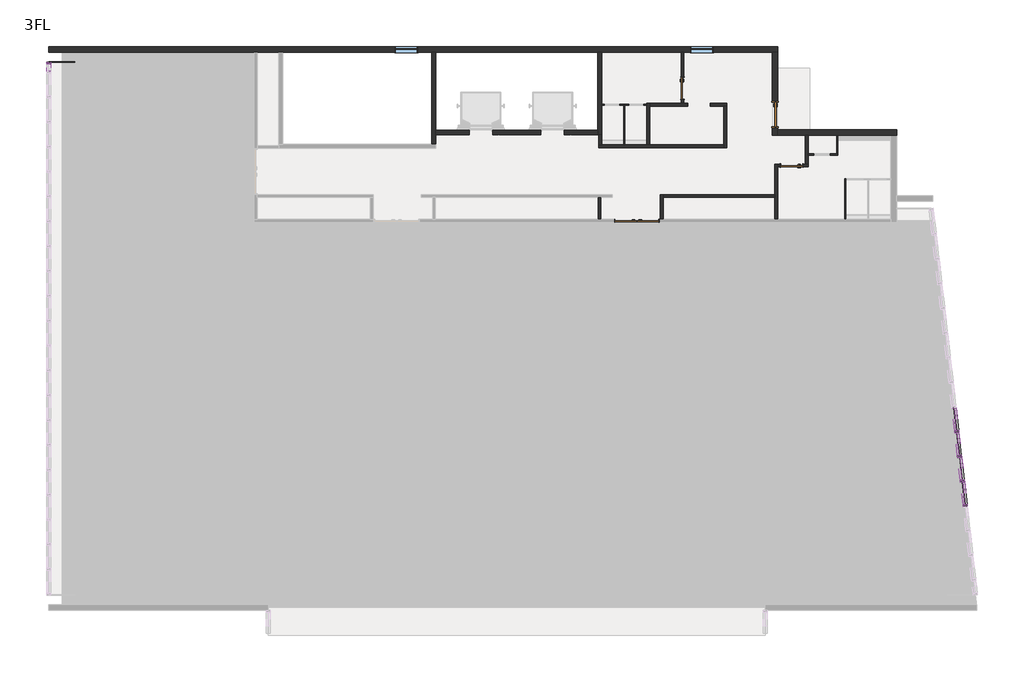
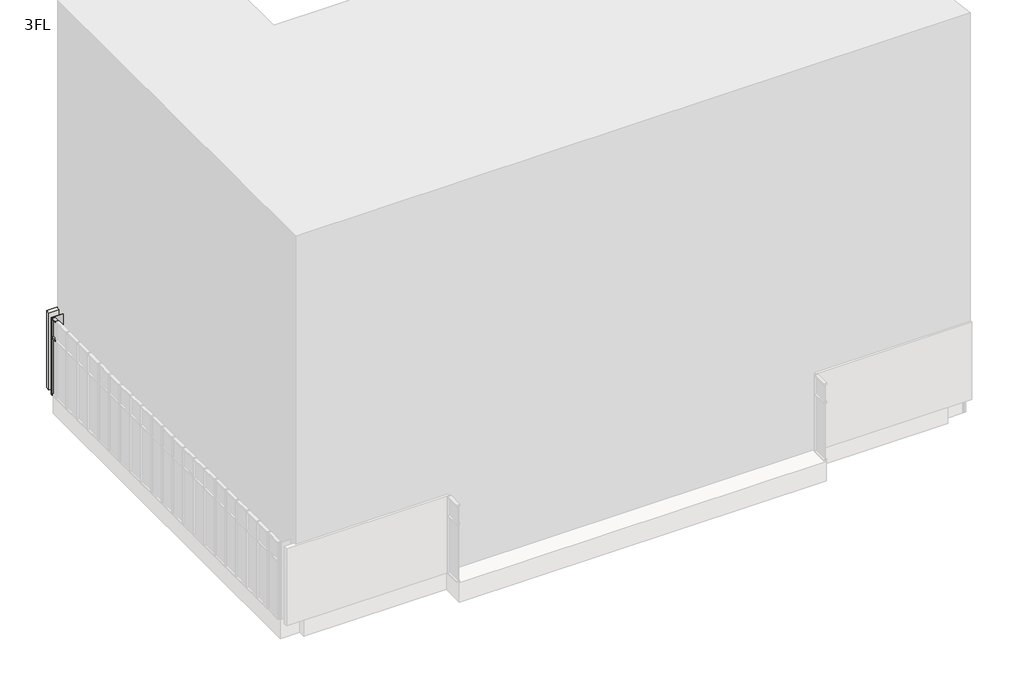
# One storey, part 4 of 5: 33 members, 23 walls, 14 plates, 5 doors, 2 windows.
"""IFC4 building model written with IfcOpenShell, lengths in millimetres."""

from ifc_helpers import new_model, si_unit, frame, origin, place, context, project, spatial, polyline, outline, extrude, faceted_brep, transform, mapped, element, save
from components import door_1de376c6, w800h2000_3f366617, w800h2000_fc627520, w800h2000_d76b1b72, w900h2000_8d150256, member_70x150_66cf63de, member_70x150_26475b18, member_70x150_ad4265bc, member_70x150_1b280ac3, member_70x150_76429c73, member_70x150_a15bb337, member_70x150_da24903b, member_70x150_cdd4dcf9, plate_d1366ea1, plate_ab860a3c, plate_396bcf3c, plate_a71482e5, w800_h1100_2b598eca

model = new_model("IFC4")

# Units and contexts
model_context = context("Model", 3, world=origin())
ifc_project = project(units=[si_unit("LENGTHUNIT", "METRE", prefix="MILLI")], contexts=[model_context])

# Site, building, storey
site = spatial("IfcSite", under=ifc_project)
building = spatial("IfcBuilding", under=site)
storey = spatial("IfcBuildingStorey", under=building, Name="3FL", Elevation=8600.0)

# Doors
placement = place(None, origin())
door_shape = door_1de376c6(model_context)
element("IfcDoor", 1, ObjectType="両開き戸 : 両開き：w1600h2000", at=placement, inside=storey, context=model_context, shape_type="MappedRepresentation", body=[
    mapped(door_shape, transform((-8054.4500107, 10449.6868987, 8600.0), x_axis=(-1.0, 0.0, 0.0), y_axis=(0.0, -1.0, 0.0), z_axis=(0.0, 0.0, 1.0))),
])
w800h2000_shape = w800h2000_3f366617(model_context)
element("IfcDoor", 2, ObjectType="片開き戸 : w800h2000", at=placement, inside=storey, context=model_context, shape_type="MappedRepresentation", body=[
    mapped(w800h2000_shape, transform((-2445.9784025, 12449.6868987, 8600.0), x_axis=(-1.0, 0.0, 0.0), y_axis=(0.0, -1.0, 0.0), z_axis=(0.0, 0.0, 1.0))),
])
w800h2000_2_shape = w800h2000_fc627520(model_context)
element("IfcDoor", 3, ObjectType="片開き戸 : w800h2000", at=placement, inside=storey, context=model_context, shape_type="MappedRepresentation", body=[
    mapped(w800h2000_2_shape, transform((-6395.9784025, 15249.6868987, 8600.0), x_axis=(0.0, -1.0, 0.0), y_axis=(1.0, 0.0, 0.0), z_axis=(0.0, 0.0, 1.0))),
])
w800h2000_3_shape = w800h2000_d76b1b72(model_context)
element("IfcDoor", 4, ObjectType="開口枠あり : w800h2000", at=placement, inside=storey, context=model_context, shape_type="MappedRepresentation", body=[
    mapped(w800h2000_3_shape, transform((-5795.9784025, 14649.6868987, 8600.0), x_axis=(-1.0, 0.0, 0.0), y_axis=(0.0, -1.0, 0.0), z_axis=(0.0, 0.0, 1.0))),
])
w900h2000_shape = w900h2000_8d150256(model_context)
element("IfcDoor", 5, ObjectType="片開き戸 : w900h2000", at=placement, inside=storey, context=model_context, shape_type="MappedRepresentation", body=[
    mapped(w900h2000_shape, transform((-3045.9784025, 14299.6868987, 8600.0), x_axis=(0.0, -1.0, 0.0), y_axis=(1.0, 0.0, 0.0), z_axis=(0.0, 0.0, 1.0))),
])

# Members
member_70x150_shape = member_70x150_66cf63de(model_context)
element("IfcMember", 6, ObjectType="長方形のマリオン : 70x150", at=placement, inside=storey, context=model_context, shape_type="MappedRepresentation", body=[
    mapped(member_70x150_shape, transform((3742.5905373, 994.1661523, 7600.0), x_axis=(0.0, 0.0, -1.0), y_axis=(-0.9935326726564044, -0.1135465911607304, 0.0), z_axis=(-0.11354659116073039, 0.9935326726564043, 0.0))),
])
element("IfcMember", 7, ObjectType="長方形のマリオン : 70x150", at=placement, inside=storey, context=model_context, shape_type="MappedRepresentation", body=[
    mapped(member_70x150_shape, transform((3640.3986053, 1888.3455577, 7600.0), x_axis=(0.0, 0.0, -1.0), y_axis=(-0.9935326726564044, -0.1135465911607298, 0.0), z_axis=(-0.1135465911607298, 0.9935326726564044, 0.0))),
])
element("IfcMember", 8, ObjectType="長方形のマリオン : 70x150", at=placement, inside=storey, context=model_context, shape_type="MappedRepresentation", body=[
    mapped(member_70x150_shape, transform((3538.2066732, 2782.5249631, 7600.0), x_axis=(0.0, 0.0, -1.0), y_axis=(-0.9935326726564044, -0.1135465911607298, 0.0), z_axis=(-0.1135465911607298, 0.9935326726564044, 0.0))),
])
element("IfcMember", 9, ObjectType="長方形のマリオン : 70x150", at=placement, inside=storey, context=model_context, shape_type="MappedRepresentation", body=[
    mapped(member_70x150_shape, transform((3844.7824693, 99.9867469, 7600.0), x_axis=(0.0, 0.0, -1.0), y_axis=(-0.9935326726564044, -0.11354659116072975, 0.0), z_axis=(-0.11354659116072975, 0.9935326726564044, 0.0))),
])
element("IfcMember", 10, ObjectType="長方形のマリオン : 70x150", at=placement, inside=storey, context=model_context, shape_type="MappedRepresentation", body=[
    mapped(member_70x150_shape, transform((3836.834208, 169.534034, 12600.0), x_axis=(0.0, 0.0, 1.0), y_axis=(-0.9935326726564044, -0.11354659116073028, 0.0), z_axis=(0.11354659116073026, -0.9935326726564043, 0.0))),
])
element("IfcMember", 11, ObjectType="長方形のマリオン : 70x150", at=placement, inside=storey, context=model_context, shape_type="MappedRepresentation", body=[
    mapped(member_70x150_shape, transform((3734.6422759, 1063.7134394, 12600.0), x_axis=(0.0, 0.0, 1.0), y_axis=(-0.9935326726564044, -0.11354659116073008, 0.0), z_axis=(0.11354659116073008, -0.9935326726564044, 0.0))),
])
element("IfcMember", 12, ObjectType="長方形のマリオン : 70x150", at=placement, inside=storey, context=model_context, shape_type="MappedRepresentation", body=[
    mapped(member_70x150_shape, transform((3632.4503439, 1957.8928448, 12600.0), x_axis=(0.0, 0.0, 1.0), y_axis=(-0.9935326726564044, -0.11354659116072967, 0.0), z_axis=(0.11354659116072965, -0.9935326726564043, 0.0))),
])
element("IfcMember", 13, ObjectType="長方形のマリオン : 70x150", at=placement, inside=storey, context=model_context, shape_type="MappedRepresentation", body=[
    mapped(member_70x150_shape, transform((3530.2584118, 2852.0722502, 12600.0), x_axis=(0.0, 0.0, 1.0), y_axis=(-0.9935326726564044, -0.11354659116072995, 0.0), z_axis=(0.11354659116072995, -0.9935326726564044, 0.0))),
])
member_70x150_2_shape = member_70x150_26475b18(model_context)
element("IfcMember", 14, ObjectType="長方形のマリオン : 70x150", at=placement, inside=storey, context=model_context, shape_type="MappedRepresentation", body=[
    mapped(member_70x150_2_shape, transform((3840.8083387, 134.7603905, 11600.0), x_axis=(0.11354659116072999, -0.9935326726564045, 0.0), y_axis=(-0.9935326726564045, -0.11354659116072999, 0.0), z_axis=(0.0, 0.0, -1.0))),
])
element("IfcMember", 15, ObjectType="長方形のマリオン : 70x150", at=placement, inside=storey, context=model_context, shape_type="MappedRepresentation", body=[
    mapped(member_70x150_2_shape, transform((3738.6164066, 1028.9397959, 11600.0), x_axis=(0.11354659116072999, -0.9935326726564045, 0.0), y_axis=(-0.9935326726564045, -0.11354659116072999, 0.0), z_axis=(0.0, 0.0, -1.0))),
])
element("IfcMember", 16, ObjectType="長方形のマリオン : 70x150", at=placement, inside=storey, context=model_context, shape_type="MappedRepresentation", body=[
    mapped(member_70x150_2_shape, transform((3636.4244746, 1923.1192013, 11600.0), x_axis=(0.11354659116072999, -0.9935326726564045, 0.0), y_axis=(-0.9935326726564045, -0.11354659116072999, 0.0), z_axis=(0.0, 0.0, -1.0))),
])
element("IfcMember", 17, ObjectType="長方形のマリオン : 70x150", at=placement, inside=storey, context=model_context, shape_type="MappedRepresentation", body=[
    mapped(member_70x150_2_shape, transform((3534.2325425, 2817.2986066, 11600.0), x_axis=(0.11354659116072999, -0.9935326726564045, 0.0), y_axis=(-0.9935326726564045, -0.11354659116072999, 0.0), z_axis=(0.0, 0.0, -1.0))),
])
member_70x150_3_shape = member_70x150_ad4265bc(model_context)
element("IfcMember", 18, ObjectType="長方形のマリオン : 70x150", at=placement, inside=storey, context=model_context, shape_type="MappedRepresentation", body=[
    mapped(member_70x150_3_shape, transform((3836.834208, 169.534034, 8600.0), x_axis=(0.0, 0.0, 1.0), y_axis=(-0.9935326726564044, -0.11354659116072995, 0.0), z_axis=(0.11354659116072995, -0.9935326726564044, 0.0))),
])
element("IfcMember", 19, ObjectType="長方形のマリオン : 70x150", at=placement, inside=storey, context=model_context, shape_type="MappedRepresentation", body=[
    mapped(member_70x150_3_shape, transform((3734.6422759, 1063.7134394, 8600.0), x_axis=(0.0, 0.0, 1.0), y_axis=(-0.9935326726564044, -0.1135465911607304, 0.0), z_axis=(0.11354659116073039, -0.9935326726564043, 0.0))),
])
element("IfcMember", 20, ObjectType="長方形のマリオン : 70x150", at=placement, inside=storey, context=model_context, shape_type="MappedRepresentation", body=[
    mapped(member_70x150_3_shape, transform((3632.4503439, 1957.8928448, 8600.0), x_axis=(0.0, 0.0, 1.0), y_axis=(-0.9935326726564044, -0.1135465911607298, 0.0), z_axis=(0.1135465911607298, -0.9935326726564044, 0.0))),
])
element("IfcMember", 21, ObjectType="長方形のマリオン : 70x150", at=placement, inside=storey, context=model_context, shape_type="MappedRepresentation", body=[
    mapped(member_70x150_3_shape, transform((3530.2584118, 2852.0722502, 8600.0), x_axis=(0.0, 0.0, 1.0), y_axis=(-0.9935326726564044, -0.11354659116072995, 0.0), z_axis=(0.11354659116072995, -0.9935326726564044, 0.0))),
])
element("IfcMember", 22, ObjectType="長方形のマリオン : 70x150", at=placement, inside=storey, context=model_context, shape_type="MappedRepresentation", body=[
    mapped(member_70x150_3_shape, transform((3530.2584118, 2852.0722502, 11600.0), x_axis=(0.0, 0.0, 1.0), y_axis=(-0.9935326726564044, -0.11354659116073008, 0.0), z_axis=(0.11354659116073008, -0.9935326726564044, 0.0))),
])
element("IfcMember", 23, ObjectType="長方形のマリオン : 70x150", at=placement, inside=storey, context=model_context, shape_type="MappedRepresentation", body=[
    mapped(member_70x150_3_shape, transform((3632.4503439, 1957.8928448, 11600.0), x_axis=(0.0, 0.0, 1.0), y_axis=(-0.9935326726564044, -0.11354659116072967, 0.0), z_axis=(0.11354659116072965, -0.9935326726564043, 0.0))),
])
element("IfcMember", 24, ObjectType="長方形のマリオン : 70x150", at=placement, inside=storey, context=model_context, shape_type="MappedRepresentation", body=[
    mapped(member_70x150_3_shape, transform((3734.6422759, 1063.7134394, 11600.0), x_axis=(0.0, 0.0, 1.0), y_axis=(-0.9935326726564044, -0.11354659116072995, 0.0), z_axis=(0.11354659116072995, -0.9935326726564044, 0.0))),
])
element("IfcMember", 25, ObjectType="長方形のマリオン : 70x150", at=placement, inside=storey, context=model_context, shape_type="MappedRepresentation", body=[
    mapped(member_70x150_3_shape, transform((3836.834208, 169.534034, 11600.0), x_axis=(0.0, 0.0, 1.0), y_axis=(-0.9935326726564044, -0.1135465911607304, 0.0), z_axis=(0.11354659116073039, -0.9935326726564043, 0.0))),
])
member_70x150_4_shape = member_70x150_1b280ac3(model_context)
element("IfcMember", 26, ObjectType="長方形のマリオン : 70x150", at=placement, inside=storey, context=model_context, shape_type="MappedRepresentation", body=[
    mapped(member_70x150_4_shape, transform((-29345.9784025, 16199.6868987, 8600.0), x_axis=(0.0, 1.0, 0.0), y_axis=(1.0, 0.0, 0.0), z_axis=(0.0, 0.0, -1.0))),
])
member_70x150_5_shape = member_70x150_76429c73(model_context)
element("IfcMember", 27, ObjectType="長方形のマリオン : 70x150", at=placement, inside=storey, context=model_context, shape_type="MappedRepresentation", body=[
    mapped(member_70x150_5_shape, transform((-29345.9784025, 16199.6868987, 11600.0), x_axis=(0.0, 1.0, 0.0), y_axis=(1.0, 0.0, 0.0), z_axis=(0.0, 0.0, -1.0))),
])
member_70x150_6_shape = member_70x150_a15bb337(model_context)
element("IfcMember", 28, ObjectType="長方形のマリオン : 70x150", at=placement, inside=storey, context=model_context, shape_type="MappedRepresentation", body=[
    mapped(member_70x150_6_shape, transform((-29345.9784025, 16129.6868987, 12600.0), x_axis=(0.0, 0.0, 1.0), y_axis=(1.0, 0.0, 0.0), z_axis=(0.0, 1.0, 0.0))),
])
member_70x150_7_shape = member_70x150_da24903b(model_context)
element("IfcMember", 29, ObjectType="長方形のマリオン : 70x150", at=placement, inside=storey, context=model_context, shape_type="MappedRepresentation", body=[
    mapped(member_70x150_7_shape, transform((-29345.9784025, 16129.6868987, 11600.0), x_axis=(0.0, 0.0, 1.0), y_axis=(1.0, 0.0, 0.0), z_axis=(0.0, 1.0, 0.0))),
])
element("IfcMember", 30, ObjectType="長方形のマリオン : 70x150", at=placement, inside=storey, context=model_context, shape_type="MappedRepresentation", body=[
    mapped(member_70x150_2_shape, transform((3738.6164066, 1028.9397959, 7600.0), x_axis=(0.11354659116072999, -0.9935326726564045, 0.0), y_axis=(-0.9935326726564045, -0.11354659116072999, 0.0), z_axis=(0.0, 0.0, -1.0))),
])
element("IfcMember", 31, ObjectType="長方形のマリオン : 70x150", at=placement, inside=storey, context=model_context, shape_type="MappedRepresentation", body=[
    mapped(member_70x150_2_shape, transform((3636.4244746, 1923.1192013, 7600.0), x_axis=(0.11354659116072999, -0.9935326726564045, 0.0), y_axis=(-0.9935326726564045, -0.11354659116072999, 0.0), z_axis=(0.0, 0.0, -1.0))),
])
element("IfcMember", 32, ObjectType="長方形のマリオン : 70x150", at=placement, inside=storey, context=model_context, shape_type="MappedRepresentation", body=[
    mapped(member_70x150_2_shape, transform((3534.2325425, 2817.2986066, 7600.0), x_axis=(0.11354659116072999, -0.9935326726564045, 0.0), y_axis=(-0.9935326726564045, -0.11354659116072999, 0.0), z_axis=(0.0, 0.0, -1.0))),
])
element("IfcMember", 33, ObjectType="長方形のマリオン : 70x150", at=placement, inside=storey, context=model_context, shape_type="MappedRepresentation", body=[
    mapped(member_70x150_2_shape, transform((3432.0406105, 3711.478012, 7600.0), x_axis=(0.11354659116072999, -0.9935326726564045, 0.0), y_axis=(-0.9935326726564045, -0.11354659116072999, 0.0), z_axis=(0.0, 0.0, -1.0))),
])
element("IfcMember", 34, ObjectType="長方形のマリオン : 70x150", at=placement, inside=storey, context=model_context, shape_type="MappedRepresentation", body=[
    mapped(member_70x150_2_shape, transform((3840.8083387, 134.7603905, 7600.0), x_axis=(0.11354659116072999, -0.9935326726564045, 0.0), y_axis=(-0.9935326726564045, -0.11354659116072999, 0.0), z_axis=(0.0, 0.0, -1.0))),
])
member_70x150_8_shape = member_70x150_cdd4dcf9(model_context)
element("IfcMember", 35, ObjectType="長方形のマリオン : 70x150", at=placement, inside=storey, context=model_context, shape_type="MappedRepresentation", body=[
    mapped(member_70x150_8_shape, transform((3840.8083387, 134.7603905, 8600.0), x_axis=(0.11354659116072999, -0.9935326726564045, 0.0), y_axis=(-0.9935326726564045, -0.11354659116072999, 0.0), z_axis=(0.0, 0.0, -1.0))),
])
element("IfcMember", 36, ObjectType="長方形のマリオン : 70x150", at=placement, inside=storey, context=model_context, shape_type="MappedRepresentation", body=[
    mapped(member_70x150_8_shape, transform((3738.6164066, 1028.9397959, 8600.0), x_axis=(0.11354659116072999, -0.9935326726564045, 0.0), y_axis=(-0.9935326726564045, -0.11354659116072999, 0.0), z_axis=(0.0, 0.0, -1.0))),
])
element("IfcMember", 37, ObjectType="長方形のマリオン : 70x150", at=placement, inside=storey, context=model_context, shape_type="MappedRepresentation", body=[
    mapped(member_70x150_8_shape, transform((3636.4244746, 1923.1192013, 8600.0), x_axis=(0.11354659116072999, -0.9935326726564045, 0.0), y_axis=(-0.9935326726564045, -0.11354659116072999, 0.0), z_axis=(0.0, 0.0, -1.0))),
])
element("IfcMember", 38, ObjectType="長方形のマリオン : 70x150", at=placement, inside=storey, context=model_context, shape_type="MappedRepresentation", body=[
    mapped(member_70x150_8_shape, transform((3534.2325425, 2817.2986066, 8600.0), x_axis=(0.11354659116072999, -0.9935326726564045, 0.0), y_axis=(-0.9935326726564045, -0.11354659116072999, 0.0), z_axis=(0.0, 0.0, -1.0))),
])

# Plates
plate_shape = plate_d1366ea1(model_context)
element("IfcPlate", 39, ObjectType="システム パネル : 標準", at=placement, inside=storey, context=model_context, shape_type="MappedRepresentation", body=[
    mapped(plate_shape, transform((-28895.9784025, 16199.6868987, 8600.0), x_axis=(1.0, 0.0, 0.0), y_axis=(0.0, 1.0, 0.0), z_axis=(0.0, 0.0, 1.0))),
])
plate_2_shape = plate_ab860a3c(model_context)
element("IfcPlate", 40, ObjectType="システム パネル : 標準", at=placement, inside=storey, context=model_context, shape_type="MappedRepresentation", body=[
    mapped(plate_2_shape, transform((-28420.9784025, 16199.6868987, 8600.0), x_axis=(1.0, 0.0, 0.0), y_axis=(0.0, 1.0, 0.0), z_axis=(0.0, 0.0, 1.0))),
])
plate_3_shape = plate_396bcf3c(model_context)
element("IfcPlate", 41, ObjectType="システム パネル : 標準", at=placement, inside=storey, context=model_context, shape_type="MappedRepresentation", body=[
    mapped(plate_3_shape, transform((3483.1365765, 3264.3883093, 7670.0), x_axis=(0.11354659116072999, -0.9935326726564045, 0.0), y_axis=(0.9935326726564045, 0.11354659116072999, 0.0), z_axis=(0.0, 0.0, 1.0))),
])
element("IfcPlate", 42, ObjectType="システム パネル : 標準", at=placement, inside=storey, context=model_context, shape_type="MappedRepresentation", body=[
    mapped(plate_3_shape, transform((3585.3285085, 2370.2089039, 7670.0), x_axis=(0.11354659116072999, -0.9935326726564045, 0.0), y_axis=(0.9935326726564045, 0.11354659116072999, 0.0), z_axis=(0.0, 0.0, 1.0))),
])
element("IfcPlate", 43, ObjectType="システム パネル : 標準", at=placement, inside=storey, context=model_context, shape_type="MappedRepresentation", body=[
    mapped(plate_3_shape, transform((3687.5204406, 1476.0294986, 7670.0), x_axis=(0.11354659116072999, -0.9935326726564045, 0.0), y_axis=(0.9935326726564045, 0.11354659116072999, 0.0), z_axis=(0.0, 0.0, 1.0))),
])
element("IfcPlate", 44, ObjectType="システム パネル : 標準", at=placement, inside=storey, context=model_context, shape_type="MappedRepresentation", body=[
    mapped(plate_3_shape, transform((3789.7123726, 581.8500932, 7670.0), x_axis=(0.11354659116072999, -0.9935326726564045, 0.0), y_axis=(0.9935326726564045, 0.11354659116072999, 0.0), z_axis=(0.0, 0.0, 1.0))),
])
element("IfcPlate", 45, ObjectType="システム パネル : 標準", at=placement, inside=storey, context=model_context, shape_type="MappedRepresentation", body=[
    mapped(plate_3_shape, transform((3483.1365765, 3264.3883093, 11635.0), x_axis=(0.11354659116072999, -0.9935326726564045, 0.0), y_axis=(0.9935326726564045, 0.11354659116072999, 0.0), z_axis=(0.0, 0.0, 1.0))),
])
element("IfcPlate", 46, ObjectType="システム パネル : 標準", at=placement, inside=storey, context=model_context, shape_type="MappedRepresentation", body=[
    mapped(plate_3_shape, transform((3585.3285085, 2370.2089039, 11635.0), x_axis=(0.11354659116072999, -0.9935326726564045, 0.0), y_axis=(0.9935326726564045, 0.11354659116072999, 0.0), z_axis=(0.0, 0.0, 1.0))),
])
element("IfcPlate", 47, ObjectType="システム パネル : 標準", at=placement, inside=storey, context=model_context, shape_type="MappedRepresentation", body=[
    mapped(plate_3_shape, transform((3687.5204406, 1476.0294986, 11635.0), x_axis=(0.11354659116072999, -0.9935326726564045, 0.0), y_axis=(0.9935326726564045, 0.11354659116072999, 0.0), z_axis=(0.0, 0.0, 1.0))),
])
element("IfcPlate", 48, ObjectType="システム パネル : 標準", at=placement, inside=storey, context=model_context, shape_type="MappedRepresentation", body=[
    mapped(plate_3_shape, transform((3789.7123726, 581.8500932, 11635.0), x_axis=(0.11354659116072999, -0.9935326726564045, 0.0), y_axis=(0.9935326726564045, 0.11354659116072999, 0.0), z_axis=(0.0, 0.0, 1.0))),
])
plate_4_shape = plate_a71482e5(model_context)
element("IfcPlate", 49, ObjectType="システム パネル : 標準", at=placement, inside=storey, context=model_context, shape_type="MappedRepresentation", body=[
    mapped(plate_4_shape, transform((3483.1365765, 3264.3883093, 8635.0), x_axis=(0.11354659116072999, -0.9935326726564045, 0.0), y_axis=(0.9935326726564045, 0.11354659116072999, 0.0), z_axis=(0.0, 0.0, 1.0))),
])
element("IfcPlate", 50, ObjectType="システム パネル : 標準", at=placement, inside=storey, context=model_context, shape_type="MappedRepresentation", body=[
    mapped(plate_4_shape, transform((3585.3285085, 2370.2089039, 8635.0), x_axis=(0.11354659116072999, -0.9935326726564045, 0.0), y_axis=(0.9935326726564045, 0.11354659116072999, 0.0), z_axis=(0.0, 0.0, 1.0))),
])
element("IfcPlate", 51, ObjectType="システム パネル : 標準", at=placement, inside=storey, context=model_context, shape_type="MappedRepresentation", body=[
    mapped(plate_4_shape, transform((3687.5204406, 1476.0294986, 8635.0), x_axis=(0.11354659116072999, -0.9935326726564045, 0.0), y_axis=(0.9935326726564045, 0.11354659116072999, 0.0), z_axis=(0.0, 0.0, 1.0))),
])
element("IfcPlate", 52, ObjectType="システム パネル : 標準", at=placement, inside=storey, context=model_context, shape_type="MappedRepresentation", body=[
    mapped(plate_4_shape, transform((3789.7123726, 581.8500932, 8635.0), x_axis=(0.11354659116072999, -0.9935326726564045, 0.0), y_axis=(0.9935326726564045, 0.11354659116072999, 0.0), z_axis=(0.0, 0.0, 1.0))),
])

# Walls
element("IfcWall", 53, ObjectType="標準200", at=placement, inside=storey, context=model_context, shape_type="Brep", body=[
    faceted_brep([(-29345.9784025, 16549.6868987, 8600.0), (-21895.9784025, 16549.6868987, 8600.0), (-21795.9784025, 16549.6868987, 8600.0), (-21020.9784025, 16549.6868987, 8600.0), (-20870.9784025, 16549.6868987, 8600.0), (-15470.9784025, 16549.6868987, 8600.0), (-15320.9784025, 16549.6868987, 8600.0), (-9470.9784025, 16549.6868987, 8600.0), (-9320.9784025, 16549.6868987, 8600.0), (-6445.9784025, 16549.6868987, 8600.0), (-6345.9784025, 16549.6868987, 8600.0), (-3145.9784025, 16549.6868987, 8600.0), (-2945.9784025, 16549.6868987, 8600.0), (-2945.9784025, 16549.6868987, 12600.0), (-3145.9784025, 16549.6868987, 12600.0), (-6345.9784025, 16549.6868987, 12600.0), (-6445.9784025, 16549.6868987, 12600.0), (-9320.9784025, 16549.6868987, 12600.0), (-9470.9784025, 16549.6868987, 12600.0), (-15320.9784025, 16549.6868987, 12600.0), (-15470.9784025, 16549.6868987, 12600.0), (-20870.9784025, 16549.6868987, 12600.0), (-21020.9784025, 16549.6868987, 12600.0), (-21795.9784025, 16549.6868987, 12600.0), (-21895.9784025, 16549.6868987, 12600.0), (-29345.9784025, 16549.6868987, 12600.0), (-6120.9784025, 16549.6868987, 10625.0), (-5270.9784025, 16549.6868987, 10625.0), (-5270.9784025, 16549.6868987, 9475.0), (-6120.9784025, 16549.6868987, 9475.0), (-16820.9784025, 16549.6868987, 10625.0), (-15970.9784025, 16549.6868987, 10625.0), (-15970.9784025, 16549.6868987, 9475.0), (-16820.9784025, 16549.6868987, 9475.0), (-29345.9784025, 16749.6868987, 8600.0), (-29345.9784025, 16749.6868987, 12600.0), (-2945.9784025, 16749.6868987, 12600.0), (-2945.9784025, 16749.6868987, 8600.0), (-6120.9784025, 16749.6868987, 10625.0), (-6120.9784025, 16749.6868987, 9475.0), (-5270.9784025, 16749.6868987, 9475.0), (-5270.9784025, 16749.6868987, 10625.0), (-16820.9784025, 16749.6868987, 10625.0), (-16820.9784025, 16749.6868987, 9475.0), (-15970.9784025, 16749.6868987, 9475.0), (-15970.9784025, 16749.6868987, 10625.0)], [[[0, 1, 2, 3, 4, 5, 6, 7, 8, 9, 10, 11, 12, 13, 14, 15, 16, 17, 18, 19, 20, 21, 22, 23, 24, 25], [26, 27, 28, 29], [30, 31, 32, 33]], [[34, 35, 36, 37], [38, 39, 40, 41], [42, 43, 44, 45]], [[12, 11, 10, 9, 8, 7, 6, 5, 4, 3, 2, 1, 0, 34, 37]], [[25, 24, 23, 22, 21, 20, 19, 18, 17, 16, 15, 14, 13, 36, 35]], [[0, 25, 35, 34]], [[13, 12, 37, 36]], [[39, 38, 26, 29]], [[40, 39, 29, 28]], [[41, 40, 28, 27]], [[38, 41, 27, 26]], [[43, 42, 30, 33]], [[44, 43, 33, 32]], [[45, 44, 32, 31]], [[42, 45, 31, 30]]]),
])
element("IfcWall", 54, ObjectType="標準200", at=placement, inside=storey, context=model_context, shape_type="Brep", body=[
    faceted_brep([(-3145.9784025, 16549.6868987, 8600.0), (-3145.9784025, 14774.6868987, 8600.0), (-3145.9784025, 14774.6868987, 10625.0), (-3145.9784025, 13824.6868987, 10625.0), (-3145.9784025, 13824.6868987, 8600.0), (-3145.9784025, 13549.6868987, 8600.0), (-3145.9784025, 13549.6868987, 12600.0), (-3145.9784025, 16549.6868987, 12600.0), (-2945.9784025, 14774.6868987, 10625.0), (-2945.9784025, 14774.6868987, 8600.0), (-2945.9784025, 16549.6868987, 8600.0), (-2945.9784025, 16549.6868987, 12600.0), (-2945.9784025, 13749.6868987, 12600.0), (-2945.9784025, 13549.6868987, 12600.0), (-2945.9784025, 13549.6868987, 8600.0), (-2945.9784025, 13749.6868987, 8600.0), (-2945.9784025, 13824.6868987, 8600.0), (-2945.9784025, 13824.6868987, 10625.0)], [[[0, 1, 2, 3, 4, 5, 6, 7]], [[8, 9, 10, 11, 12, 13, 14, 15, 16, 17]], [[10, 9, 1, 0]], [[16, 15, 14, 5, 4]], [[7, 6, 13, 12, 11]], [[0, 7, 11, 10]], [[6, 5, 14, 13]], [[4, 3, 17, 16]], [[2, 1, 9, 8]], [[3, 2, 8, 17]]]),
])
element("IfcWall", 55, ObjectType="標準200", at=placement, inside=storey, context=model_context, shape_type="Brep", body=[
    faceted_brep([(-2945.9784025, 13549.6868987, 8600.0), (-1945.9784025, 13549.6868987, 8600.0), (-1845.9784025, 13549.6868987, 8600.0), (-815.9784025, 13549.6868987, 8600.0), (-775.9784025, 13549.6868987, 8600.0), (1154.0215975, 13549.6868987, 8600.0), (1354.0215975, 13549.6868987, 8600.0), (1354.0215975, 13549.6868987, 12600.0), (1154.0215975, 13549.6868987, 12600.0), (-1845.9784025, 13549.6868987, 12600.0), (-1945.9784025, 13549.6868987, 12600.0), (-2945.9784025, 13549.6868987, 12600.0), (-2945.9784025, 13749.6868987, 8600.0), (-2945.9784025, 13749.6868987, 12600.0), (1354.0215975, 13749.6868987, 12600.0), (1354.0215975, 13749.6868987, 8600.0)], [[[0, 1, 2, 3, 4, 5, 6, 7, 8, 9, 10, 11]], [[12, 13, 14, 15]], [[6, 5, 4, 3, 2, 1, 0, 12, 15]], [[11, 10, 9, 8, 7, 14, 13]], [[0, 11, 13, 12]], [[7, 6, 15, 14]]]),
])
element("IfcWall", 56, ObjectType="標準150", at=placement, inside=storey, context=model_context, shape_type="Brep", body=[
    faceted_brep([(-9470.9784025, 16549.6868987, 8600.0), (-9470.9784025, 13724.6868987, 8600.0), (-9470.9784025, 13574.6868987, 8600.0), (-9470.9784025, 13574.6868987, 12600.0), (-9470.9784025, 13724.6868987, 12600.0), (-9470.9784025, 16549.6868987, 12600.0), (-9320.9784025, 16549.6868987, 8600.0), (-9320.9784025, 16549.6868987, 12600.0), (-9320.9784025, 13574.6868987, 12600.0), (-9320.9784025, 13574.6868987, 8600.0), (-9320.9784025, 14629.6868987, 8600.0), (-9320.9784025, 14669.6868987, 8600.0), (-9420.9784025, 13574.6868987, 8600.0), (-9420.9784025, 13574.6868987, 12600.0)], [[[0, 1, 2, 3, 4, 5]], [[6, 7, 8, 9, 10, 11]], [[2, 1, 0, 6, 11, 10, 9, 12]], [[5, 4, 3, 13, 8, 7]], [[0, 5, 7, 6]], [[3, 2, 12, 9, 8, 13]]]),
])
element("IfcWall", 57, ObjectType="標準150", at=placement, inside=storey, context=model_context, shape_type="SweptSolid", body=[
    extrude(outline(polyline([(8600.0, -13270.9784025), (8600.0, -11520.9784025), (10725.0, -11520.9784025), (10725.0, -10670.9784025), (8600.0, -10670.9784025), (8600.0, -9470.9784025), (12600.0, -9470.9784025), (12600.0, -15320.9784025), (8600.0, -15320.9784025), (8600.0, -14120.9784025), (10725.0, -14120.9784025), (10725.0, -13270.9784025), (8600.0, -13270.9784025)])), frame((0.0, 13574.6868987, 0.0), z_axis=(0.0, 1.0, 0.0), x_axis=(0.0, 0.0, 1.0)), (0.0, 0.0, 1.0), 150.0),
])
element("IfcWall", 58, ObjectType="標準150", at=placement, inside=storey, context=model_context, shape_type="Brep", body=[
    faceted_brep([(-15320.9784025, 13224.6868987, 8600.0), (-15320.9784025, 13574.6868987, 8600.0), (-15320.9784025, 13724.6868987, 8600.0), (-15320.9784025, 16549.6868987, 8600.0), (-15320.9784025, 16549.6868987, 12600.0), (-15320.9784025, 13724.6868987, 12600.0), (-15320.9784025, 13574.6868987, 12600.0), (-15320.9784025, 13224.6868987, 12600.0), (-15470.9784025, 13224.6868987, 8600.0), (-15470.9784025, 13224.6868987, 12600.0), (-15470.9784025, 16549.6868987, 12600.0), (-15470.9784025, 16549.6868987, 8600.0)], [[[0, 1, 2, 3, 4, 5, 6, 7]], [[8, 9, 10, 11]], [[3, 2, 1, 0, 8, 11]], [[7, 6, 5, 4, 10, 9]], [[4, 3, 11, 10]], [[0, 7, 9, 8]]]),
])
element("IfcWall", 59, ObjectType="標準100", at=placement, inside=storey, context=model_context, shape_type="Brep", body=[
    faceted_brep([(-2945.9784025, 10499.6868987, 8600.0), (-2945.9784025, 12399.6868987, 8600.0), (-2945.9784025, 12499.6868987, 8600.0), (-2945.9784025, 12499.6868987, 12600.0), (-2945.9784025, 12399.6868987, 12600.0), (-2945.9784025, 10499.6868987, 12600.0), (-3045.9784025, 10499.6868987, 8600.0), (-3045.9784025, 10499.6868987, 12600.0), (-3045.9784025, 11299.6868987, 12600.0), (-3045.9784025, 11399.6868987, 12600.0), (-3045.9784025, 12499.6868987, 12600.0), (-3045.9784025, 12499.6868987, 8600.0), (-3045.9784025, 11399.6868987, 8600.0), (-3045.9784025, 11299.6868987, 8600.0)], [[[0, 1, 2, 3, 4, 5]], [[6, 7, 8, 9, 10, 11, 12, 13]], [[2, 1, 0, 6, 13, 12, 11]], [[5, 4, 3, 10, 9, 8, 7]], [[0, 5, 7, 6]], [[3, 2, 11, 10]]]),
])
element("IfcWall", 60, ObjectType="標準100", at=placement, inside=storey, context=model_context, shape_type="Brep", body=[
    faceted_brep([(-7095.9784025, 10499.6868987, 8600.0), (-7095.9784025, 11299.6868987, 8600.0), (-7095.9784025, 11399.6868987, 8600.0), (-7095.9784025, 11399.6868987, 12600.0), (-7095.9784025, 11299.6868987, 12600.0), (-7095.9784025, 10499.6868987, 12600.0), (-7195.9784025, 10499.6868987, 8600.0), (-7195.9784025, 10499.6868987, 12600.0), (-7195.9784025, 11399.6868987, 12600.0), (-7195.9784025, 11399.6868987, 8600.0)], [[[0, 1, 2, 3, 4, 5]], [[6, 7, 8, 9]], [[2, 1, 0, 6, 9]], [[5, 4, 3, 8, 7]], [[0, 5, 7, 6]], [[3, 2, 9, 8]]]),
])
element("IfcWall", 61, ObjectType="標準100", at=placement, inside=storey, context=model_context, shape_type="SweptSolid", body=[
    extrude(outline(polyline([(-3045.9784025, 11299.6868987), (-7095.9784025, 11299.6868987), (-7095.9784025, 11399.6868987), (-3045.9784025, 11399.6868987), (-3045.9784025, 11299.6868987)])), frame((0.0, 0.0, 8600.0), z_axis=(0.0, 0.0, 1.0), x_axis=(1.0, 0.0, 0.0)), (0.0, 0.0, 1.0), 4000.0),
])
element("IfcWall", 62, ObjectType="標準100", at=placement, inside=storey, context=model_context, shape_type="SweptSolid", body=[
    extrude(outline(polyline([(-9445.9784025, 10499.6868987), (-9445.9784025, 11299.6868987), (-9345.9784025, 11299.6868987), (-9345.9784025, 10499.6868987), (-9445.9784025, 10499.6868987)])), frame((0.0, 0.0, 8600.0), z_axis=(0.0, 0.0, 1.0), x_axis=(1.0, 0.0, 0.0)), (0.0, 0.0, 1.0), 4000.0),
])
element("IfcWall", 63, ObjectType="標準100", at=placement, inside=storey, context=model_context, shape_type="SweptSolid", body=[
    extrude(outline(polyline([(16549.6868987, 8600.0), (15674.6868987, 8600.0), (15674.6868987, 10625.0), (14824.6868987, 10625.0), (14824.6868987, 8600.0), (14699.6868987, 8600.0), (14699.6868987, 12600.0), (16549.6868987, 12600.0), (16549.6868987, 8600.0)])), frame((-6445.9784025, 0.0, 0.0), z_axis=(1.0, 0.0, 0.0), x_axis=(0.0, 1.0, 0.0)), (0.0, 0.0, 1.0), 100.0),
])
element("IfcWall", 64, ObjectType="標準100", at=placement, inside=storey, context=model_context, shape_type="Brep", body=[
    faceted_brep([(-4895.9784025, 13199.6868987, 8600.0), (-7580.9784025, 13199.6868987, 8600.0), (-7680.9784025, 13199.6868987, 8600.0), (-8480.9784025, 13199.6868987, 8600.0), (-8520.9784025, 13199.6868987, 8600.0), (-9320.9784025, 13199.6868987, 8600.0), (-9420.9784025, 13199.6868987, 8600.0), (-9420.9784025, 13199.6868987, 12600.0), (-9320.9784025, 13199.6868987, 12600.0), (-7680.9784025, 13199.6868987, 12600.0), (-7580.9784025, 13199.6868987, 12600.0), (-4895.9784025, 13199.6868987, 12600.0), (-4895.9784025, 13099.6868987, 8600.0), (-4895.9784025, 13099.6868987, 12600.0), (-9420.9784025, 13099.6868987, 12600.0), (-9420.9784025, 13099.6868987, 8600.0)], [[[0, 1, 2, 3, 4, 5, 6, 7, 8, 9, 10, 11]], [[12, 13, 14, 15]], [[6, 5, 4, 3, 2, 1, 0, 12, 15]], [[11, 10, 9, 8, 7, 14, 13]], [[0, 11, 13, 12]], [[7, 6, 15, 14]]]),
])
element("IfcWall", 65, ObjectType="標準100", at=placement, inside=storey, context=model_context, shape_type="SweptSolid", body=[
    extrude(outline(polyline([(-9320.9784025, 13574.6868987), (-9320.9784025, 13199.6868987), (-9420.9784025, 13199.6868987), (-9420.9784025, 13574.6868987), (-9320.9784025, 13574.6868987)])), frame((0.0, 0.0, 8600.0), z_axis=(0.0, 0.0, 1.0), x_axis=(1.0, 0.0, 0.0)), (0.0, 0.0, 1.0), 4000.0),
])
element("IfcWall", 66, ObjectType="標準100", at=placement, inside=storey, context=model_context, shape_type="Brep", body=[
    faceted_brep([(-7580.9784025, 13199.6868987, 8600.0), (-7580.9784025, 14599.6868987, 8600.0), (-7580.9784025, 14699.6868987, 8600.0), (-7580.9784025, 14699.6868987, 12600.0), (-7580.9784025, 14599.6868987, 12600.0), (-7580.9784025, 13199.6868987, 12600.0), (-7680.9784025, 13199.6868987, 8600.0), (-7680.9784025, 13199.6868987, 12600.0), (-7680.9784025, 14699.6868987, 12600.0), (-7680.9784025, 14699.6868987, 8600.0), (-7680.9784025, 14669.6868987, 8600.0), (-7680.9784025, 14629.6868987, 8600.0)], [[[0, 1, 2, 3, 4, 5]], [[6, 7, 8, 9, 10, 11]], [[2, 1, 0, 6, 11, 10, 9]], [[5, 4, 3, 8, 7]], [[0, 5, 7, 6]], [[2, 9, 8, 3]]]),
])
element("IfcWall", 67, ObjectType="標準100", at=placement, inside=storey, context=model_context, shape_type="Brep", body=[
    faceted_brep([(-5370.9784025, 14599.6868987, 10625.0), (-5370.9784025, 14599.6868987, 8600.0), (-4895.9784025, 14599.6868987, 8600.0), (-4795.9784025, 14599.6868987, 8600.0), (-4795.9784025, 14599.6868987, 12600.0), (-4895.9784025, 14599.6868987, 12600.0), (-7580.9784025, 14599.6868987, 12600.0), (-7580.9784025, 14599.6868987, 8600.0), (-6220.9784025, 14599.6868987, 8600.0), (-6220.9784025, 14599.6868987, 10625.0), (-4795.9784025, 14699.6868987, 8600.0), (-5370.9784025, 14699.6868987, 8600.0), (-5370.9784025, 14699.6868987, 10625.0), (-6220.9784025, 14699.6868987, 10625.0), (-6220.9784025, 14699.6868987, 8600.0), (-6345.9784025, 14699.6868987, 8600.0), (-6445.9784025, 14699.6868987, 8600.0), (-7580.9784025, 14699.6868987, 8600.0), (-7580.9784025, 14699.6868987, 12600.0), (-6445.9784025, 14699.6868987, 12600.0), (-6345.9784025, 14699.6868987, 12600.0), (-4795.9784025, 14699.6868987, 12600.0)], [[[0, 1, 2, 3, 4, 5, 6, 7, 8, 9]], [[10, 11, 12, 13, 14, 15, 16, 17, 18, 19, 20, 21]], [[8, 7, 17, 16, 15, 14]], [[3, 2, 1, 11, 10]], [[6, 5, 4, 21, 20, 19, 18]], [[4, 3, 10, 21]], [[14, 13, 9, 8]], [[12, 11, 1, 0]], [[13, 12, 0, 9]], [[6, 18, 17, 7]]]),
])
element("IfcWall", 68, ObjectType="標準100", at=placement, inside=storey, context=model_context, shape_type="Brep", body=[
    faceted_brep([(-4895.9784025, 14599.6868987, 8600.0), (-4895.9784025, 13199.6868987, 8600.0), (-4895.9784025, 13099.6868987, 8600.0), (-4895.9784025, 13099.6868987, 12600.0), (-4895.9784025, 13199.6868987, 12600.0), (-4895.9784025, 14599.6868987, 12600.0), (-4795.9784025, 14599.6868987, 8600.0), (-4795.9784025, 14599.6868987, 12600.0), (-4795.9784025, 13099.6868987, 12600.0), (-4795.9784025, 13099.6868987, 8600.0)], [[[0, 1, 2, 3, 4, 5]], [[6, 7, 8, 9]], [[2, 1, 0, 6, 9]], [[5, 4, 3, 8, 7]], [[3, 2, 9, 8]], [[0, 5, 7, 6]]]),
])
element("IfcWall", 69, ObjectType="標準100", at=placement, inside=storey, context=model_context, shape_type="Brep", body=[
    faceted_brep([(-2020.9784025, 12399.6868987, 10625.0), (-2020.9784025, 12399.6868987, 8600.0), (-1845.9784025, 12399.6868987, 8600.0), (-1845.9784025, 12399.6868987, 12600.0), (-2945.9784025, 12399.6868987, 12600.0), (-2945.9784025, 12399.6868987, 8600.0), (-2870.9784025, 12399.6868987, 8600.0), (-2870.9784025, 12399.6868987, 10625.0), (-1845.9784025, 12499.6868987, 8600.0), (-1945.9784025, 12499.6868987, 8600.0), (-2020.9784025, 12499.6868987, 8600.0), (-2020.9784025, 12499.6868987, 10625.0), (-2870.9784025, 12499.6868987, 10625.0), (-2870.9784025, 12499.6868987, 8600.0), (-2945.9784025, 12499.6868987, 8600.0), (-2945.9784025, 12499.6868987, 12600.0), (-1945.9784025, 12499.6868987, 12600.0), (-1845.9784025, 12499.6868987, 12600.0)], [[[0, 1, 2, 3, 4, 5, 6, 7]], [[8, 9, 10, 11, 12, 13, 14, 15, 16, 17]], [[6, 5, 14, 13]], [[2, 1, 10, 9, 8]], [[4, 3, 17, 16, 15]], [[3, 2, 8, 17]], [[5, 4, 15, 14]], [[13, 12, 7, 6]], [[11, 10, 1, 0]], [[12, 11, 0, 7]]]),
])
element("IfcWall", 70, ObjectType="標準100", at=placement, inside=storey, context=model_context, shape_type="Brep", body=[
    faceted_brep([(-1845.9784025, 12499.6868987, 8600.0), (-1845.9784025, 12829.6868987, 8600.0), (-1845.9784025, 12869.6868987, 8600.0), (-1845.9784025, 13549.6868987, 8600.0), (-1845.9784025, 13549.6868987, 12600.0), (-1845.9784025, 12499.6868987, 12600.0), (-1945.9784025, 12499.6868987, 8600.0), (-1945.9784025, 12499.6868987, 12600.0), (-1945.9784025, 13549.6868987, 12600.0), (-1945.9784025, 13549.6868987, 8600.0)], [[[0, 1, 2, 3, 4, 5]], [[6, 7, 8, 9]], [[3, 2, 1, 0, 6, 9]], [[5, 4, 8, 7]], [[0, 5, 7, 6]], [[4, 3, 9, 8]]]),
])
element("IfcWall", 71, ObjectType="トイレブース 40", at=placement, inside=storey, context=model_context, shape_type="SweptSolid", body=[
    extrude(outline(polyline([(-8480.9784025, 14629.6868987), (-8480.9784025, 13199.6868987), (-8520.9784025, 13199.6868987), (-8520.9784025, 14629.6868987), (-8480.9784025, 14629.6868987)])), frame((0.0, 0.0, 8600.0), z_axis=(0.0, 0.0, 1.0), x_axis=(1.0, 0.0, 0.0)), (0.0, 0.0, 1.0), 2000.0),
])
element("IfcWall", 72, ObjectType="トイレブース 40", at=placement, inside=storey, context=model_context, shape_type="Brep", body=[
    faceted_brep([(-9320.9784025, 14629.6868987, 10600.0), (-9320.9784025, 14629.6868987, 8600.0), (-9223.4784025, 14629.6868987, 8600.0), (-9223.4784025, 14629.6868987, 10600.0), (-9320.9784025, 14669.6868987, 8600.0), (-9320.9784025, 14669.6868987, 10600.0), (-9223.4784025, 14669.6868987, 10600.0), (-9223.4784025, 14669.6868987, 8600.0)], [[[0, 1, 2, 3]], [[4, 5, 6, 7]], [[1, 4, 7, 2]], [[5, 0, 3, 6]], [[1, 0, 5, 4]], [[3, 2, 7, 6]]]),
    faceted_brep([(-7680.9784025, 14629.6868987, 8600.0), (-7680.9784025, 14629.6868987, 10600.0), (-7790.9784025, 14629.6868987, 10600.0), (-7790.9784025, 14629.6868987, 8600.0), (-7680.9784025, 14669.6868987, 10600.0), (-7680.9784025, 14669.6868987, 8600.0), (-7790.9784025, 14669.6868987, 8600.0), (-7790.9784025, 14669.6868987, 10600.0)], [[[0, 1, 2, 3]], [[4, 5, 6, 7]], [[5, 0, 3, 6]], [[1, 4, 7, 2]], [[1, 0, 5, 4]], [[3, 2, 7, 6]]]),
    faceted_brep([(-8673.4784025, 14629.6868987, 10600.0), (-8673.4784025, 14629.6868987, 8600.0), (-8520.9784025, 14629.6868987, 8600.0), (-8480.9784025, 14629.6868987, 8600.0), (-8340.9784025, 14629.6868987, 8600.0), (-8340.9784025, 14629.6868987, 10600.0), (-8480.9784025, 14629.6868987, 10600.0), (-8520.9784025, 14629.6868987, 10600.0), (-8673.4784025, 14669.6868987, 8600.0), (-8673.4784025, 14669.6868987, 10600.0), (-8340.9784025, 14669.6868987, 10600.0), (-8340.9784025, 14669.6868987, 8600.0)], [[[0, 1, 2, 3, 4, 5, 6, 7]], [[8, 9, 10, 11]], [[1, 8, 11, 4, 3, 2]], [[9, 0, 7, 6, 5, 10]], [[1, 0, 9, 8]], [[5, 4, 11, 10]]]),
])
element("IfcWall", 73, ObjectType="トイレブース 40", at=placement, inside=storey, context=model_context, shape_type="Brep", body=[
    faceted_brep([(-485.9784025, 10499.6868987, 8600.0), (-485.9784025, 11929.6868987, 8600.0), (-485.9784025, 11969.6868987, 8600.0), (-485.9784025, 11969.6868987, 10600.0), (-485.9784025, 11929.6868987, 10600.0), (-485.9784025, 10499.6868987, 10600.0), (-525.9784025, 10499.6868987, 8600.0), (-525.9784025, 10499.6868987, 10600.0), (-525.9784025, 11969.6868987, 10600.0), (-525.9784025, 11969.6868987, 8600.0)], [[[0, 1, 2, 3, 4, 5]], [[6, 7, 8, 9]], [[2, 1, 0, 6, 9]], [[5, 4, 3, 8, 7]], [[0, 5, 7, 6]], [[3, 2, 9, 8]]]),
])
element("IfcWall", 74, ObjectType="トイレブース 40", at=placement, inside=storey, context=model_context, shape_type="Brep", body=[
    faceted_brep([(-1845.9784025, 12829.6868987, 10600.0), (-1845.9784025, 12829.6868987, 8600.0), (-1645.9784025, 12829.6868987, 8600.0), (-1645.9784025, 12829.6868987, 10600.0), (-1845.9784025, 12869.6868987, 8600.0), (-1845.9784025, 12869.6868987, 10600.0), (-1645.9784025, 12869.6868987, 10600.0), (-1645.9784025, 12869.6868987, 8600.0)], [[[0, 1, 2, 3]], [[4, 5, 6, 7]], [[1, 4, 7, 2]], [[5, 0, 3, 6]], [[1, 0, 5, 4]], [[3, 2, 7, 6]]]),
    faceted_brep([(-775.9784025, 12829.6868987, 8600.0), (-775.9784025, 12829.6868987, 10600.0), (-1045.9784025, 12829.6868987, 10600.0), (-1045.9784025, 12829.6868987, 8600.0), (-775.9784025, 12869.6868987, 10600.0), (-775.9784025, 12869.6868987, 8600.0), (-815.9784025, 12869.6868987, 8600.0), (-1045.9784025, 12869.6868987, 8600.0), (-1045.9784025, 12869.6868987, 10600.0), (-815.9784025, 12869.6868987, 10600.0)], [[[0, 1, 2, 3]], [[4, 5, 6, 7, 8, 9]], [[5, 0, 3, 7, 6]], [[1, 4, 9, 8, 2]], [[1, 0, 5, 4]], [[3, 2, 8, 7]]]),
])
element("IfcWall", 75, ObjectType="トイレブース 40", at=placement, inside=storey, context=model_context, shape_type="SweptSolid", body=[
    extrude(outline(polyline([(-775.9784025, 13549.6868987), (-775.9784025, 12869.6868987), (-815.9784025, 12869.6868987), (-815.9784025, 13549.6868987), (-775.9784025, 13549.6868987)])), frame((0.0, 0.0, 8600.0), z_axis=(0.0, 0.0, 1.0), x_axis=(1.0, 0.0, 0.0)), (0.0, 0.0, 1.0), 2000.0),
])

# Windows
w800_h1100_shape = w800_h1100_2b598eca(model_context)
element("IfcWindow", 76, ObjectType="すべり出し窓 : W800 H1100", at=placement, inside=storey, context=model_context, shape_type="MappedRepresentation", body=[
    mapped(w800_h1100_shape, transform((-16320.9784025, 16649.6868987, 8600.0), x_axis=(-1.0, 0.0, 0.0), y_axis=(0.0, -1.0, 0.0), z_axis=(0.0, 0.0, 1.0))),
])
element("IfcWindow", 77, ObjectType="すべり出し窓 : W800 H1100", at=placement, inside=storey, context=model_context, shape_type="MappedRepresentation", body=[
    mapped(w800_h1100_shape, transform((-5620.9784025, 16649.6868987, 8600.0), x_axis=(-1.0, 0.0, 0.0), y_axis=(0.0, -1.0, 0.0), z_axis=(0.0, 0.0, 1.0))),
])

save(model, "model.ifc")
